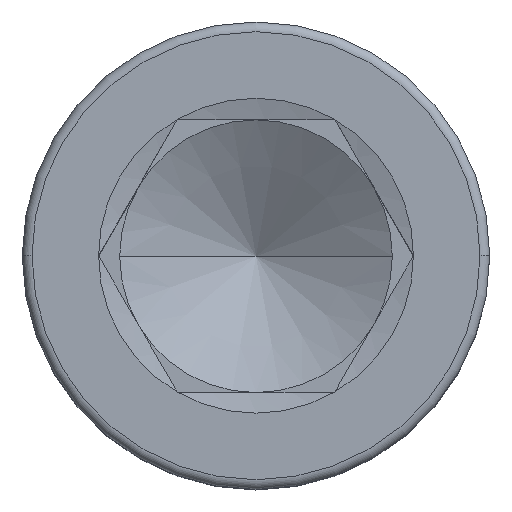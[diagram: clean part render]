
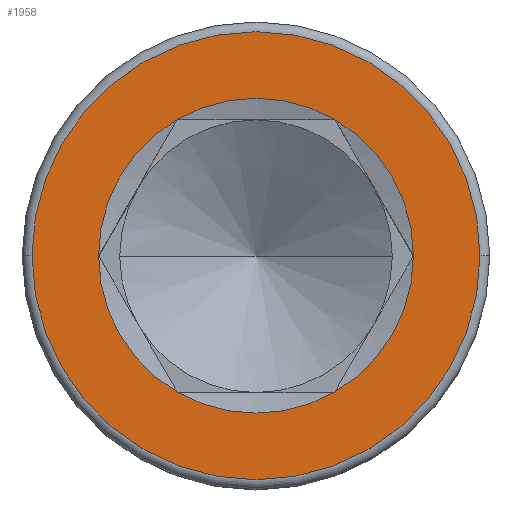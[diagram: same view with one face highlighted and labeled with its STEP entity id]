
A CAD part, top view. The second image highlights one B-rep face of the part: STEP entity #1958.
In plain terms, the highlighted planar face has unit normal (0, 0, 1).
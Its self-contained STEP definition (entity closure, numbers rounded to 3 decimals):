
#17 = CARTESIAN_POINT ( 'NONE',  ( 8.083, 0., 16. ) ) ;
#30 = DIRECTION ( 'NONE',  ( 0., 0., 1. ) ) ;
#93 = FACE_BOUND ( 'NONE', #761, .T. ) ;
#109 = CIRCLE ( 'NONE', #1115, 8.083 ) ;
#146 = CIRCLE ( 'NONE', #1538, 8.083 ) ;
#174 = EDGE_CURVE ( 'NONE', #981, #293, #683, .T. ) ;
#208 = CARTESIAN_POINT ( 'NONE',  ( -11.5, 0., 16. ) ) ;
#209 = DIRECTION ( 'NONE',  ( 1., 0., 0. ) ) ;
#238 = ORIENTED_EDGE ( 'NONE', *, *, #678, .T. ) ;
#257 = DIRECTION ( 'NONE',  ( 1., 0., 0. ) ) ;
#259 = CARTESIAN_POINT ( 'NONE',  ( 0., 0., 16. ) ) ;
#270 = AXIS2_PLACEMENT_3D ( 'NONE', #259, #585, #412 ) ;
#293 = VERTEX_POINT ( 'NONE', #1654 ) ;
#352 = EDGE_CURVE ( 'NONE', #493, #1906, #655, .T. ) ;
#362 = ORIENTED_EDGE ( 'NONE', *, *, #833, .F. ) ;
#363 = CARTESIAN_POINT ( 'NONE',  ( 0., 0., 16. ) ) ;
#373 = CIRCLE ( 'NONE', #1944, 11.5 ) ;
#402 = CIRCLE ( 'NONE', #955, 8.083 ) ;
#412 = DIRECTION ( 'NONE',  ( 1., 0., 0. ) ) ;
#457 = ORIENTED_EDGE ( 'NONE', *, *, #174, .F. ) ;
#483 = CARTESIAN_POINT ( 'NONE',  ( 0., 0., 16. ) ) ;
#493 = VERTEX_POINT ( 'NONE', #17 ) ;
#509 = CIRCLE ( 'NONE', #1635, 11.5 ) ;
#541 = DIRECTION ( 'NONE',  ( 1., 0., 0. ) ) ;
#549 = VERTEX_POINT ( 'NONE', #1232 ) ;
#554 = EDGE_CURVE ( 'NONE', #572, #981, #402, .T. ) ;
#563 = AXIS2_PLACEMENT_3D ( 'NONE', #659, #1008, #209 ) ;
#572 = VERTEX_POINT ( 'NONE', #1902 ) ;
#585 = DIRECTION ( 'NONE',  ( 0., 0., 1. ) ) ;
#595 = CARTESIAN_POINT ( 'NONE',  ( 4.041, 7., 16. ) ) ;
#655 = CIRCLE ( 'NONE', #270, 8.083 ) ;
#659 = CARTESIAN_POINT ( 'NONE',  ( 0., 0., 16. ) ) ;
#678 = EDGE_CURVE ( 'NONE', #549, #688, #373, .T. ) ;
#683 = CIRCLE ( 'NONE', #1884, 8.083 ) ;
#688 = VERTEX_POINT ( 'NONE', #208 ) ;
#696 = DIRECTION ( 'NONE',  ( 0., 0., 1. ) ) ;
#731 = DIRECTION ( 'NONE',  ( 1., 0., 0. ) ) ;
#761 = EDGE_LOOP ( 'NONE', ( #1196, #362, #973, #457, #1284, #1454 ) ) ;
#833 = EDGE_CURVE ( 'NONE', #1162, #493, #109, .T. ) ;
#838 = DIRECTION ( 'NONE',  ( 0., 0., 1. ) ) ;
#856 = CIRCLE ( 'NONE', #563, 8.083 ) ;
#869 = CARTESIAN_POINT ( 'NONE',  ( 0., 0., 16. ) ) ;
#874 = CARTESIAN_POINT ( 'NONE',  ( 0., 0., 16. ) ) ;
#892 = FACE_OUTER_BOUND ( 'NONE', #1724, .T. ) ;
#955 = AXIS2_PLACEMENT_3D ( 'NONE', #483, #30, #541 ) ;
#973 = ORIENTED_EDGE ( 'NONE', *, *, #1802, .F. ) ;
#981 = VERTEX_POINT ( 'NONE', #1863 ) ;
#1008 = DIRECTION ( 'NONE',  ( 0., 0., 1. ) ) ;
#1068 = DIRECTION ( 'NONE',  ( 0., 0., 1. ) ) ;
#1092 = CARTESIAN_POINT ( 'NONE',  ( 4.041, -7., 16. ) ) ;
#1115 = AXIS2_PLACEMENT_3D ( 'NONE', #869, #696, #1487 ) ;
#1116 = AXIS2_PLACEMENT_3D ( 'NONE', #1966, #1478, #257 ) ;
#1162 = VERTEX_POINT ( 'NONE', #1092 ) ;
#1196 = ORIENTED_EDGE ( 'NONE', *, *, #352, .F. ) ;
#1232 = CARTESIAN_POINT ( 'NONE',  ( 11.5, 0., 16. ) ) ;
#1267 = CARTESIAN_POINT ( 'NONE',  ( 0., 0., 16. ) ) ;
#1284 = ORIENTED_EDGE ( 'NONE', *, *, #554, .F. ) ;
#1454 = ORIENTED_EDGE ( 'NONE', *, *, #1550, .F. ) ;
#1457 = EDGE_CURVE ( 'NONE', #688, #549, #509, .T. ) ;
#1478 = DIRECTION ( 'NONE',  ( 0., 0., 1. ) ) ;
#1487 = DIRECTION ( 'NONE',  ( 1., 0., 0. ) ) ;
#1492 = DIRECTION ( 'NONE',  ( 0., 0., 1. ) ) ;
#1503 = DIRECTION ( 'NONE',  ( 1., 0., 0. ) ) ;
#1509 = PLANE ( 'NONE',  #1116 ) ;
#1531 = CARTESIAN_POINT ( 'NONE',  ( 0., 0., 16. ) ) ;
#1538 = AXIS2_PLACEMENT_3D ( 'NONE', #874, #1492, #731 ) ;
#1550 = EDGE_CURVE ( 'NONE', #1906, #572, #146, .T. ) ;
#1608 = DIRECTION ( 'NONE',  ( 0., 0., 1. ) ) ;
#1617 = DIRECTION ( 'NONE',  ( 1., 0., 0. ) ) ;
#1635 = AXIS2_PLACEMENT_3D ( 'NONE', #1531, #1068, #1503 ) ;
#1654 = CARTESIAN_POINT ( 'NONE',  ( -4.041, -7., 16. ) ) ;
#1715 = ORIENTED_EDGE ( 'NONE', *, *, #1457, .T. ) ;
#1724 = EDGE_LOOP ( 'NONE', ( #238, #1715 ) ) ;
#1766 = DIRECTION ( 'NONE',  ( 1., 0., 0. ) ) ;
#1802 = EDGE_CURVE ( 'NONE', #293, #1162, #856, .T. ) ;
#1863 = CARTESIAN_POINT ( 'NONE',  ( -8.083, 0., 16. ) ) ;
#1884 = AXIS2_PLACEMENT_3D ( 'NONE', #363, #838, #1766 ) ;
#1902 = CARTESIAN_POINT ( 'NONE',  ( -4.041, 7., 16. ) ) ;
#1906 = VERTEX_POINT ( 'NONE', #595 ) ;
#1944 = AXIS2_PLACEMENT_3D ( 'NONE', #1267, #1608, #1617 ) ;
#1958 = ADVANCED_FACE ( 'NONE', ( #892, #93 ), #1509, .T. ) ;
#1966 = CARTESIAN_POINT ( 'NONE',  ( 0., 0., 16. ) ) ;
